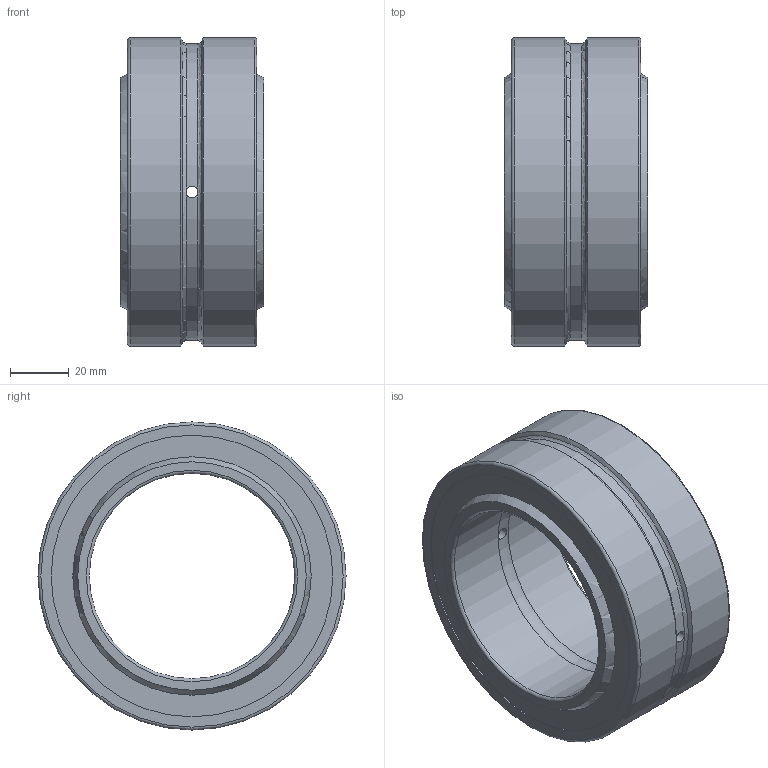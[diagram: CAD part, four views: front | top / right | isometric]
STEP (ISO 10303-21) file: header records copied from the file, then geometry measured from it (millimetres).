
FILE_DESCRIPTION(/* description */ (''),/* implementation_level */ '2;1');
FILE_NAME(/* name */ 'D:\moje\parametrické\GE--E-2RS\GE--E-2RS\GE70E-2RS.stp',/* time_stamp */ '2016-08-17T13:36:26+02:00',/* author */ ('OUBALASKO'),/* organization */ (''),/* preprocessor_version */ 'ST-DEVELOPER v15.6',/* originating_system */ 'Autodesk Inventor 2015',/* authorisation */ '');
FILE_SCHEMA (('AUTOMOTIVE_DESIGN { 1 0 10303 214 3 1 1 }'));
Length unit declared in the file: millimetre
Products named in the file (4): GE70E-2RS-02; GE70E-2RS-01; GE70E-2RS-RS; GE70E-2RS
Assembly tree (4 placements, depth 2):
  GE70E-2RS
    GE70E-2RS-02
    GE70E-2RS-01
    GE70E-2RS-RS  x2
Bounding box: 49 x 105 x 105 mm (x, y, z)
Volume: 210061.5 mm3; surface area: 72466.8 mm2
Topology: 4 solids, 4 shells, 39 faces, 87 edges, 58 vertices
Faces by surface type: cylinder 14, plane 10, torus 8, sphere 5, cone 2
Full cylindrical faces by diameter (mm): 4 x4, 70 x2, 96 x4, 105 x2
Entity records: 1168 total; most frequent: CARTESIAN_POINT 405, DIRECTION 154, ORIENTED_EDGE 96, AXIS2_PLACEMENT_3D 77, EDGE_LOOP 74, EDGE_CURVE 48, VERTEX_POINT 44, FACE_BOUND 40
